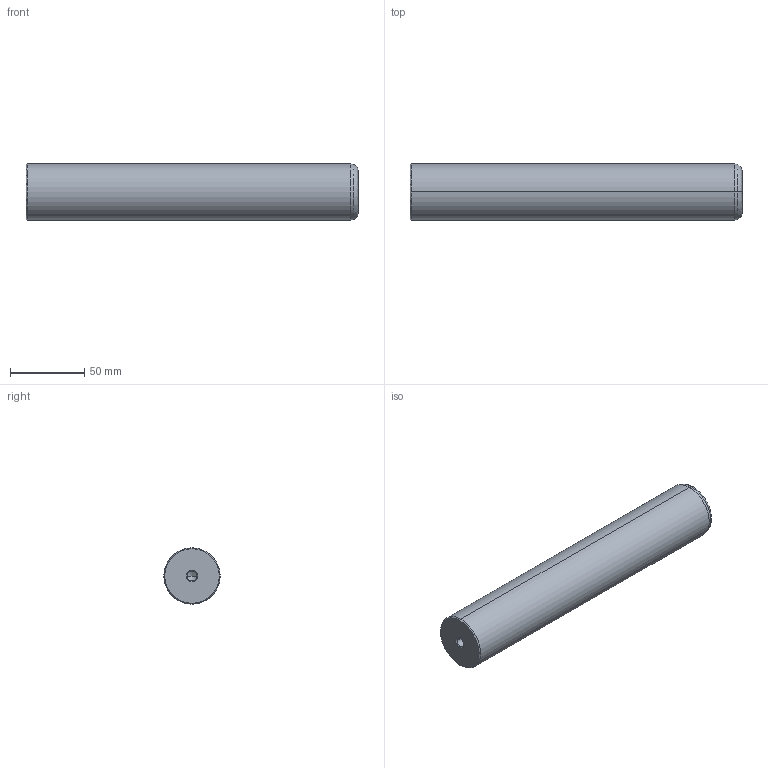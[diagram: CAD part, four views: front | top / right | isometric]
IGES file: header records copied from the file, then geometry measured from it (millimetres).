
Start section: START RECORD GO HERE.
Global section: file name: 720-38x224.igs; native system: DASSAULT SYSTEMES CATIA V5 R20 - www.3ds.com; preprocessor: CATIA Version 5 Release 20 ; author: Utente; organization: NB04-ASUS; date: 20210101.130548; units: millimetre
Bounding box: 224 x 38 x 38 mm (x, y, z)
Surface area: 29696 mm2 (no closed solid volume)
Topology: 0 solids, 0 shells, 22 faces, 108 edges, 104 vertices
Faces by surface type: revolution 20, plane 2
